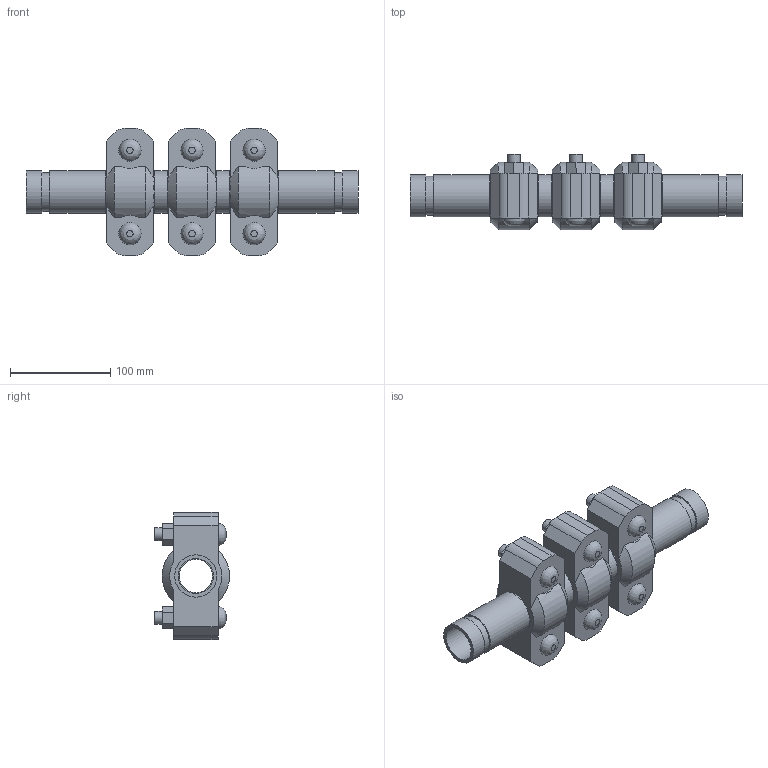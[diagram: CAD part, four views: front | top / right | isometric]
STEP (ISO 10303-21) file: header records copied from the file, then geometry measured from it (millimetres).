
FILE_DESCRIPTION(/* description */ ('VIC EXPANSION JOINT 3 COUPLINGS EXPANDED STYLE 155 (OGS)','CAx-IF Rec.Pracs.---Representation and Presentation of Product Manufacturing Information (PMI)---4.0---2014-10-13'),/* implementation_level */ '2;1');
FILE_NAME(/* name */ 'C:\Users\kkamble\AppData\Roaming\Autodesk\ApplicationPlugins\Victaulic.Temp\A258\Victaulic_IPS_Expansion Joint_Expanded_3 Couplings_Style 155 (OGS)_1.25 (32).stp',/* time_stamp */ '2021-06-26T23:58:01+02:00',/* author */ ('kkamble'),/* organization */ ('Victaulic'),/* preprocessor_version */ 'ST-DEVELOPER v17.2',/* originating_system */ 'Autodesk Inventor 2019',/* authorisation */ '');
FILE_SCHEMA (('AP242_MANAGED_MODEL_BASED_3D_ENGINEERING_MIM_LF { 1 0 10303 442 1 1 4 }'));
Length unit declared in the file: inch
Products named in the file (4): 155-01.25; Nipple-01.25; Nipple-01.25_1; 077-01.25
Assembly tree (7 placements, depth 2):
  155-01.25
    Nipple-01.25  x2
    Nipple-01.25_1  x2
    077-01.25  x3
Bounding box: 331.47 x 74.93 x 127 mm (x, y, z)
Volume: 821377.3 mm3; surface area: 211324.5 mm2
Topology: 7 solids, 13 shells, 231 faces, 555 edges, 390 vertices
Faces by surface type: plane 132, cylinder 81, cone 12, bspline 6
Full cylindrical faces by diameter (mm): 12.7 x12, 14.605 x6, 33.274 x3, 35.052 x4, 38.989 x8, 42.164 x18
Entity records: 2937 total; most frequent: CARTESIAN_POINT 551, DIRECTION 477, ORIENTED_EDGE 410, EDGE_CURVE 205, AXIS2_PLACEMENT_3D 190, VERTEX_POINT 146, EDGE_LOOP 111, LINE 97
